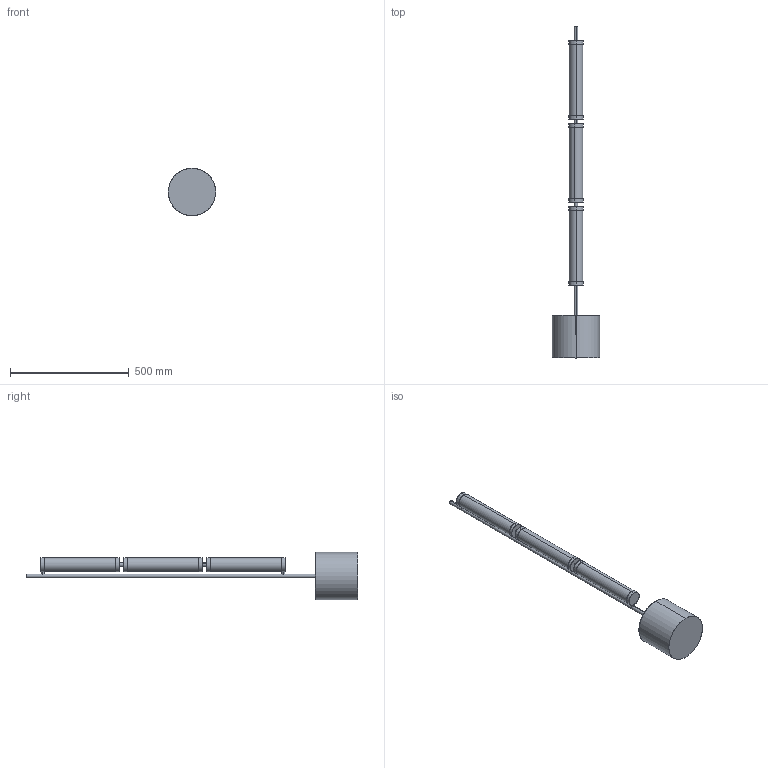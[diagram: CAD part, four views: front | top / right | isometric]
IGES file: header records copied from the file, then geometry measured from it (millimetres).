
Start section: SolidWorks IGES file using analytic representation for surfaces
Global section: file name: C:\Users\Agustin\Downloads\NUMU_P1343.IGS; native system: SolidWorks 2018; preprocessor: SolidWorks 2018; author: Agustin; date: 250730.123725; units: millimetre
Bounding box: 200 x 1400 x 200 mm (x, y, z)
Surface area: 472403.8 mm2 (no closed solid volume)
Topology: 0 solids, 0 shells, 62 faces, 1728 edges, 1728 vertices
Faces by surface type: bspline 32, revolution 30
